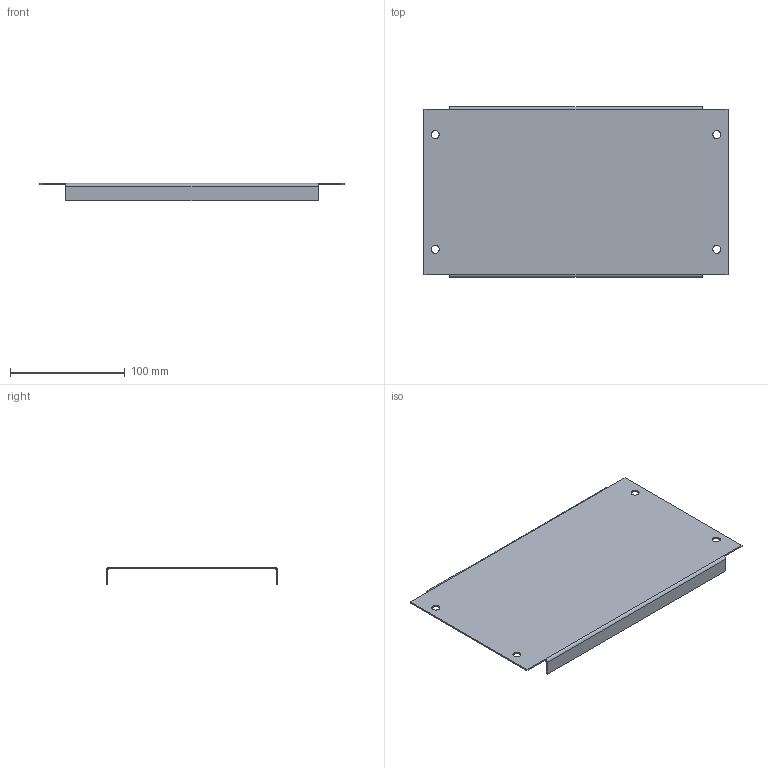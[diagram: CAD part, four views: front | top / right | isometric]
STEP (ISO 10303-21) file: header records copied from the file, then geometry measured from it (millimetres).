
FILE_DESCRIPTION (( 'STEP AP203' ), '1' );
FILE_NAME ('MB 15.30 Ïàíåëü ìîäóëüíàÿ.STEP', '2022-05-12T11:37:18', ( '' ), ( '' ), 'SwSTEP 2.0', 'SolidWorks 2018', '' );
FILE_SCHEMA (( 'CONFIG_CONTROL_DESIGN' ));
Length unit declared in the file: millimetre
Products named in the file (1): MB 15.30 Ïàíåëü ìîäóëüíàÿ
Bounding box: 265 x 149 x 15 mm (x, y, z)
Volume: 53831.4 mm3; surface area: 90880.6 mm2
Topology: 1 solids, 1 shells, 34 faces, 80 edges, 48 vertices
Faces by surface type: plane 22, cylinder 12
Entity records: 1053 total; most frequent: DIRECTION 174, CARTESIAN_POINT 163, ORIENTED_EDGE 160, EDGE_CURVE 80, AXIS2_PLACEMENT_3D 59, VECTOR 56, LINE 56, VERTEX_POINT 48
